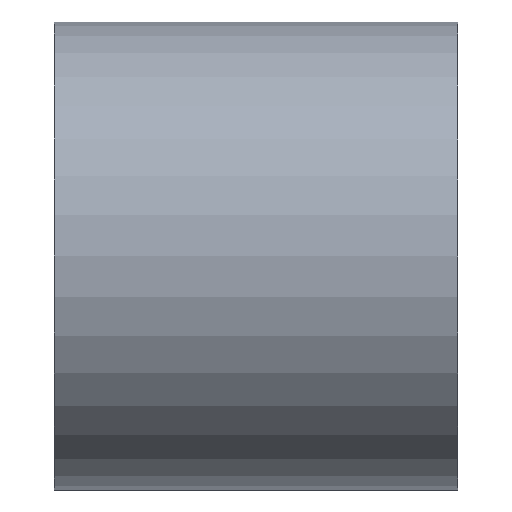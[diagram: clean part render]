
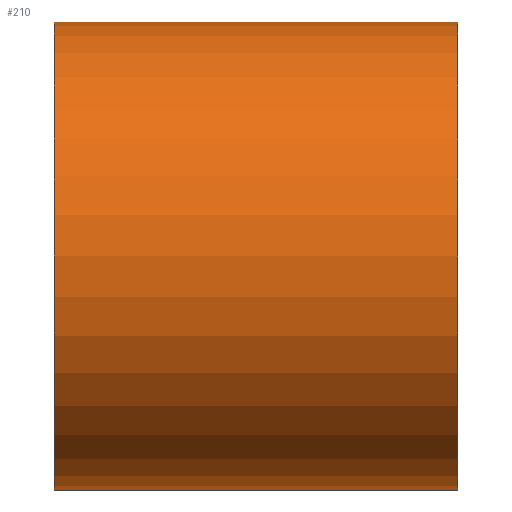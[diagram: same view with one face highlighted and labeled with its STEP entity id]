
A CAD part, front view. The second image highlights one B-rep face of the part: STEP entity #210.
In plain terms, the highlighted cylindrical face has radius 725 mm (diameter 1450 mm), a partial arc.
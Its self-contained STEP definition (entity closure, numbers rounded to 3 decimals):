
#210=ADVANCED_FACE('',(#422),#423,.T.);
#422=FACE_OUTER_BOUND('',#669,.T.);
#423=CYLINDRICAL_SURFACE('',#670,725.0);
#669=EDGE_LOOP('',(#1231,#1232,#1233,#1234));
#670=AXIS2_PLACEMENT_3D('',#1235,#1236,#1237);
#1231=ORIENTED_EDGE('',*,*,#1335,.T.);
#1232=ORIENTED_EDGE('',*,*,#1573,.F.);
#1233=ORIENTED_EDGE('',*,*,#1337,.T.);
#1234=ORIENTED_EDGE('',*,*,#1574,.F.);
#1235=CARTESIAN_POINT('',(0.0,0.0,0.0));
#1236=DIRECTION('',(1.0,0.0,0.0));
#1237=DIRECTION('',(0.0,0.0,-1.0));
#1335=EDGE_CURVE('',#1578,#1579,#1580,.T.);
#1337=EDGE_CURVE('',#1583,#1581,#1584,.T.);
#1573=EDGE_CURVE('',#1583,#1579,#1935,.T.);
#1574=EDGE_CURVE('',#1578,#1581,#1936,.T.);
#1578=VERTEX_POINT('',#1940);
#1579=VERTEX_POINT('',#1941);
#1580=LINE('',#1942,#1943);
#1581=VERTEX_POINT('',#1944);
#1583=VERTEX_POINT('',#1946);
#1584=LINE('',#1947,#1948);
#1935=CIRCLE('',#2367,725.0);
#1936=CIRCLE('',#2368,725.0);
#1940=CARTESIAN_POINT('',(-625.0,0.0,-725.0));
#1941=CARTESIAN_POINT('',(625.0,0.0,-725.0));
#1942=CARTESIAN_POINT('',(0.0,0.,-725.0));
#1943=VECTOR('',#2371,1.0);
#1944=CARTESIAN_POINT('',(-625.0,0.,725.0));
#1946=CARTESIAN_POINT('',(625.0,0.,725.0));
#1947=CARTESIAN_POINT('',(0.0,0.,725.0));
#1948=VECTOR('',#2375,1.0);
#2367=AXIS2_PLACEMENT_3D('',#2762,#2763,#2764);
#2368=AXIS2_PLACEMENT_3D('',#2765,#2766,#2767);
#2371=DIRECTION('',(1.0,0.0,0.0));
#2375=DIRECTION('',(-1.0,-0.0,-0.0));
#2762=CARTESIAN_POINT('',(625.0,0.0,0.0));
#2763=DIRECTION('',(1.0,0.0,0.0));
#2764=DIRECTION('',(0.0,0.0,-1.0));
#2765=CARTESIAN_POINT('',(-625.0,0.0,0.0));
#2766=DIRECTION('',(-1.0,0.0,0.0));
#2767=DIRECTION('',(0.0,0.0,-1.0));
